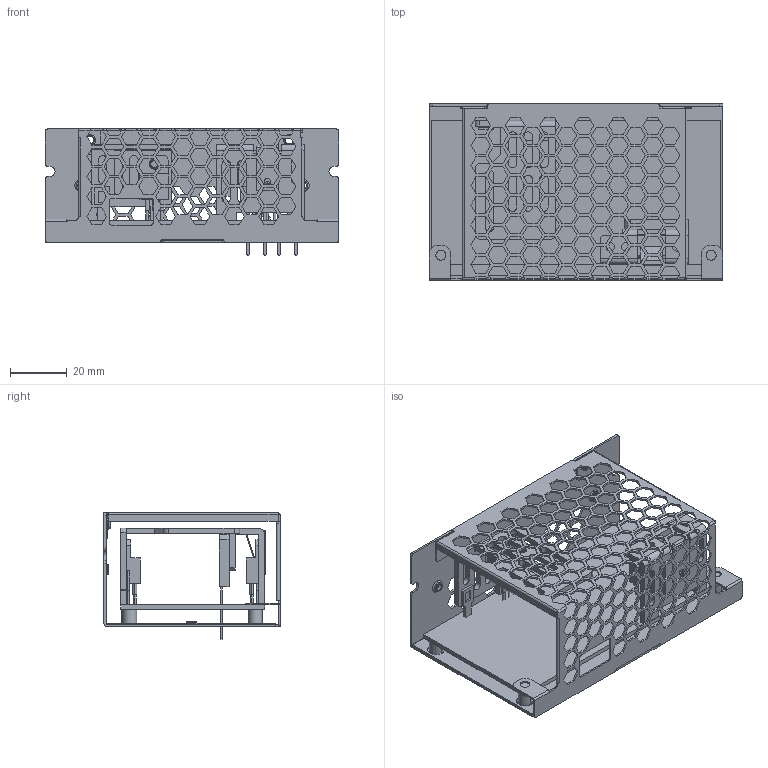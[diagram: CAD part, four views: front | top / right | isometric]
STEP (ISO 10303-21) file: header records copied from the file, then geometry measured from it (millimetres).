
FILE_DESCRIPTION(('Creo Elements/Direct Modeling STEP Export'),'2;1');
FILE_NAME('RPS-120.stp','2016-05-30T14:22:45',(''),(''),'PTC Creo Elements/Direct Modeling STEP processor for AP214 (Solid Model)','PTC Creo Elements/Direct Modeling 19.0 09-May-2014 (C) Parametric Technology GmbH','');
FILE_SCHEMA(('AUTOMOTIVE_DESIGN { 1 0 10303 214 1 1 1 1 }'));
Length unit declared in the file: millimetre
Products named in the file (18): M3-6Lê°˜W-1; 946A-D; a1; 946; HHH; clip.1; p1; pcb; MOS15.5x10.1.1.1.1.1.1.1.1.1.1; pin.1.2.1.1; HS1.1; p2; HS1; 22; PCB; RPS-120
Assembly tree (21 placements, depth 4):
  RPS-120
    PCB
      22
      HS1
        pin.1.2.1.1
        p2
      HS1.1
        p1
        pin.1.2.1.1
      MOS15.5x10.1.1.1.1.1.1.1.1.1.1  x2
      pcb
      p1
      clip.1
    HHH
    946
      a1
        946A-D
        M3-6Lê°˜W-1  x4
Bounding box: 103.38 x 62.02 x 44.5 mm (x, y, z)
Volume: 27713.6 mm3; surface area: 63639.9 mm2
Topology: 15 solids, 15 shells, 1662 faces, 4797 edges, 3166 vertices
Faces by surface type: plane 1357, cylinder 247, bspline 24, torus 22, cone 12
Entity records: 55021 total; most frequent: CARTESIAN_POINT 11750, ORIENTED_EDGE 9356, DIRECTION 7881, EDGE_CURVE 4678, VECTOR 4049, LINE 4049, VERTEX_POINT 3087, EDGE_LOOP 2009
